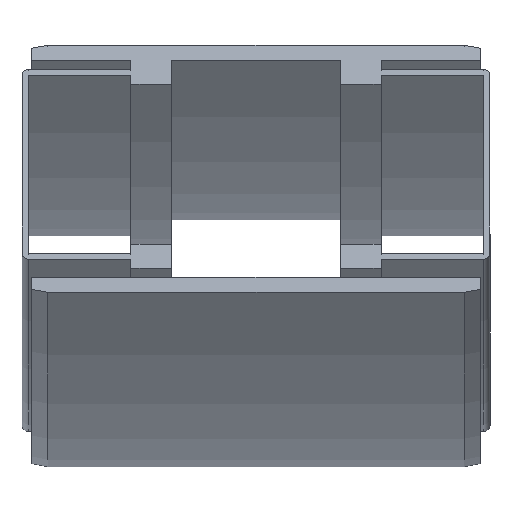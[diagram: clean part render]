
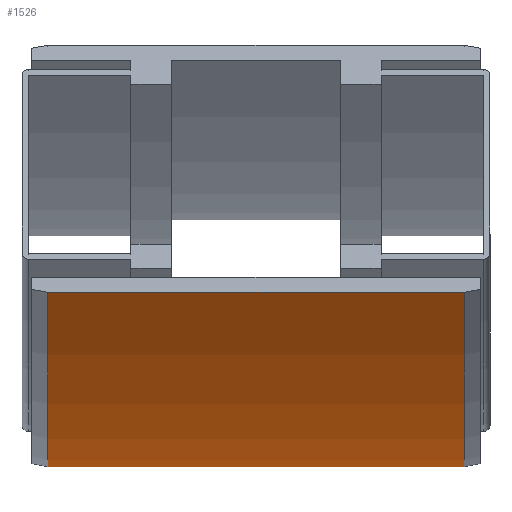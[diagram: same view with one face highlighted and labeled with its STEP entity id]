
A CAD part, left-side view. The second image highlights one B-rep face of the part: STEP entity #1526.
In plain terms, the highlighted cylindrical face has radius 902.5 mm (diameter 1805 mm), a partial arc.
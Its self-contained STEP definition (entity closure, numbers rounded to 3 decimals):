
#80=CYLINDRICAL_SURFACE('',#1643,902.5);
#149=FACE_OUTER_BOUND('',#236,.T.);
#236=EDGE_LOOP('',(#1052,#1053,#1054,#1055));
#323=CIRCLE('',#1633,902.5);
#328=CIRCLE('',#1642,902.5);
#400=LINE('',#2215,#526);
#401=LINE('',#2216,#527);
#526=VECTOR('',#1808,10.);
#527=VECTOR('',#1809,10.);
#643=VERTEX_POINT('',#2183);
#644=VERTEX_POINT('',#2185);
#652=VERTEX_POINT('',#2209);
#653=VERTEX_POINT('',#2211);
#799=EDGE_CURVE('',#643,#644,#323,.T.);
#813=EDGE_CURVE('',#652,#653,#328,.T.);
#814=EDGE_CURVE('',#643,#652,#400,.T.);
#815=EDGE_CURVE('',#644,#653,#401,.T.);
#1052=ORIENTED_EDGE('',*,*,#814,.T.);
#1053=ORIENTED_EDGE('',*,*,#813,.T.);
#1054=ORIENTED_EDGE('',*,*,#815,.F.);
#1055=ORIENTED_EDGE('',*,*,#799,.F.);
#1526=ADVANCED_FACE('',(#149),#80,.T.);
#1633=AXIS2_PLACEMENT_3D('',#2186,#1777,#1778);
#1642=AXIS2_PLACEMENT_3D('',#2213,#1804,#1805);
#1643=AXIS2_PLACEMENT_3D('',#2214,#1806,#1807);
#1777=DIRECTION('center_axis',(0.,1.,0.));
#1778=DIRECTION('ref_axis',(0.,0.,
-1.));
#1804=DIRECTION('center_axis',(0.,1.,0.));
#1805=DIRECTION('ref_axis',(0.,0.,
-1.));
#1806=DIRECTION('center_axis',(0.,1.,0.));
#1807=DIRECTION('ref_axis',(0.,0.,-1.));
#1808=DIRECTION('',(0.,-1.,0.));
#1809=DIRECTION('',(0.,-1.,0.));
#2183=CARTESIAN_POINT('',(0.,65.,-42.5));
#2185=CARTESIAN_POINT('',(-308.673,65.,11.927));
#2186=CARTESIAN_POINT('Origin',(0.,65.,860.));
#2209=CARTESIAN_POINT('',(0.,-65.,-42.5));
#2211=CARTESIAN_POINT('',(-308.673,-65.,11.927));
#2213=CARTESIAN_POINT('Origin',(0.,-65.,
860.));
#2214=CARTESIAN_POINT('Origin',(0.,0.,860.));
#2215=CARTESIAN_POINT('',(0.,65.,-42.5));
#2216=CARTESIAN_POINT('',(-308.673,65.,11.927));
